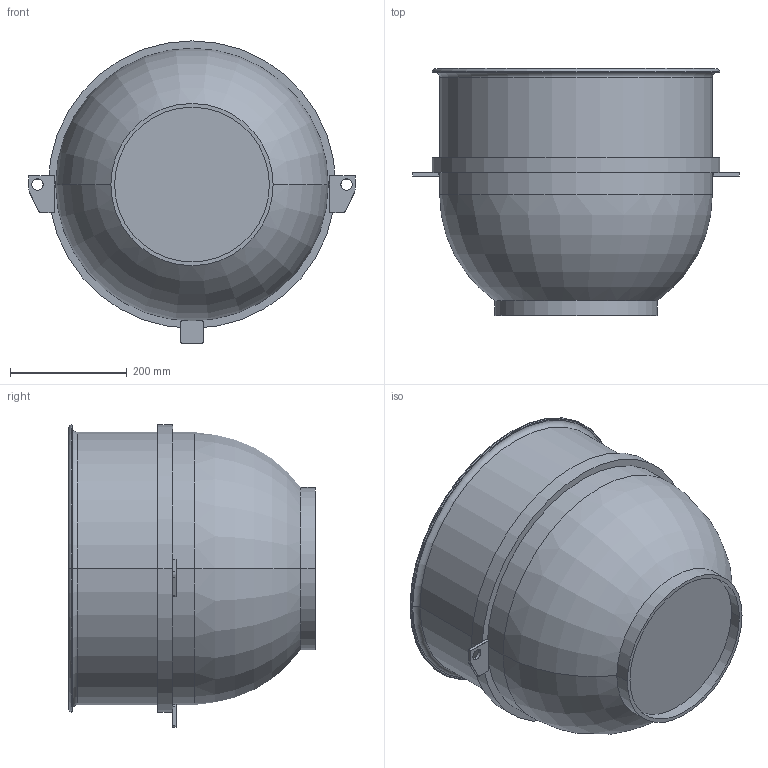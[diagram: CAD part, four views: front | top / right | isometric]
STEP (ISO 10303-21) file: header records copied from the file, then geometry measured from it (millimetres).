
FILE_DESCRIPTION (( 'STEP AP214' ), '1' );
FILE_NAME ('MIXING BOWL ASSY.STEP', '2021-03-08T22:53:50', ( '' ), ( '' ), 'SwSTEP 2.0', 'SolidWorks 2021', '' );
FILE_SCHEMA (( 'AUTOMOTIVE_DESIGN' ));
Length unit declared in the file: inch
Products named in the file (1): MIXING BOWL ASSY
Bounding box: 559.17 x 422.27 x 517.07 mm (x, y, z)
Volume: 3190161.5 mm3; surface area: 1409043.4 mm2
Topology: 4 solids, 4 shells, 120 faces, 258 edges, 140 vertices
Faces by surface type: cylinder 54, plane 28, torus 26, sphere 12
Entity records: 4785 total; most frequent: DIRECTION 638, CARTESIAN_POINT 507, ORIENTED_EDGE 492, AXIS2_PLACEMENT_3D 271, EDGE_CURVE 246, CIRCLE 150, VERTEX_POINT 140, EDGE_LOOP 130
